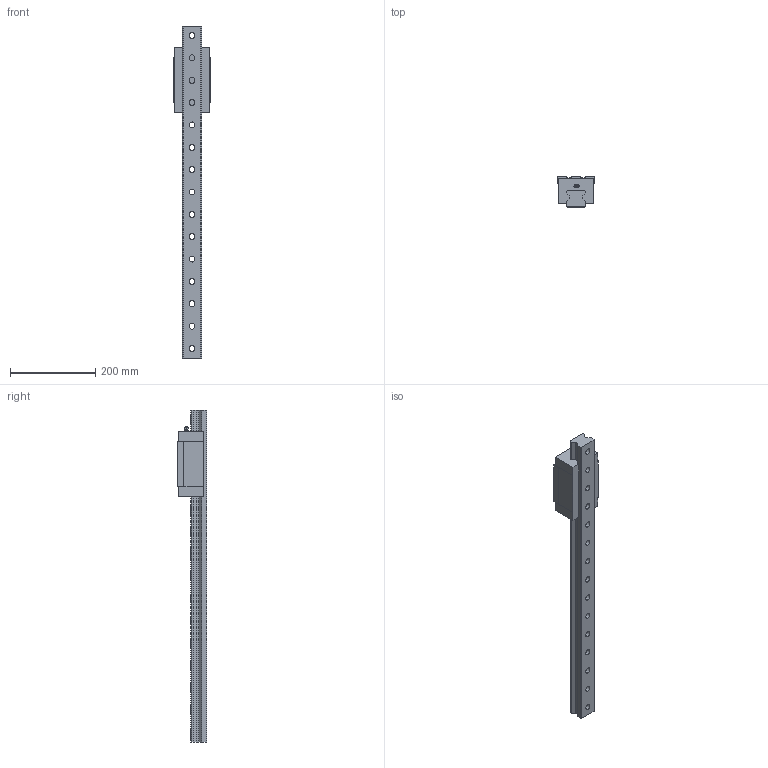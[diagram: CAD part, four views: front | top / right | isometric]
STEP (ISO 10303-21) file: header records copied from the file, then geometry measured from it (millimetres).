
FILE_DESCRIPTION(('STEP AP214'),'1');
FILE_NAME('D:/ModelConvertServices/Model.002/SVC.ACISConvertServices002/output/314c9a5c-3e85-4674-964e-4d7c0fb2c421/1_RGH45CA1R780ZOH.step','2022-07-22T10:24:58',(' '),(' '),'Spatial InterOp 3D',' ',' ');
FILE_SCHEMA(('automotive_design'));
Length unit declared in the file: millimetre
Products named in the file (2): 1; 2
Bounding box: 86 x 70 x 780 mm (x, y, z)
Volume: 1652703.3 mm3; surface area: 230682.8 mm2
Topology: 2 solids, 2 shells, 284 faces, 701 edges, 456 vertices
Faces by surface type: plane 140, cylinder 112, cone 30, sphere 2
Entity records: 10818 total; most frequent: CARTESIAN_POINT 1601, DIRECTION 1483, ORIENTED_EDGE 1398, EDGE_CURVE 699, AXIS2_PLACEMENT_3D 546, VERTEX_POINT 456, LINE 391, VECTOR 391
